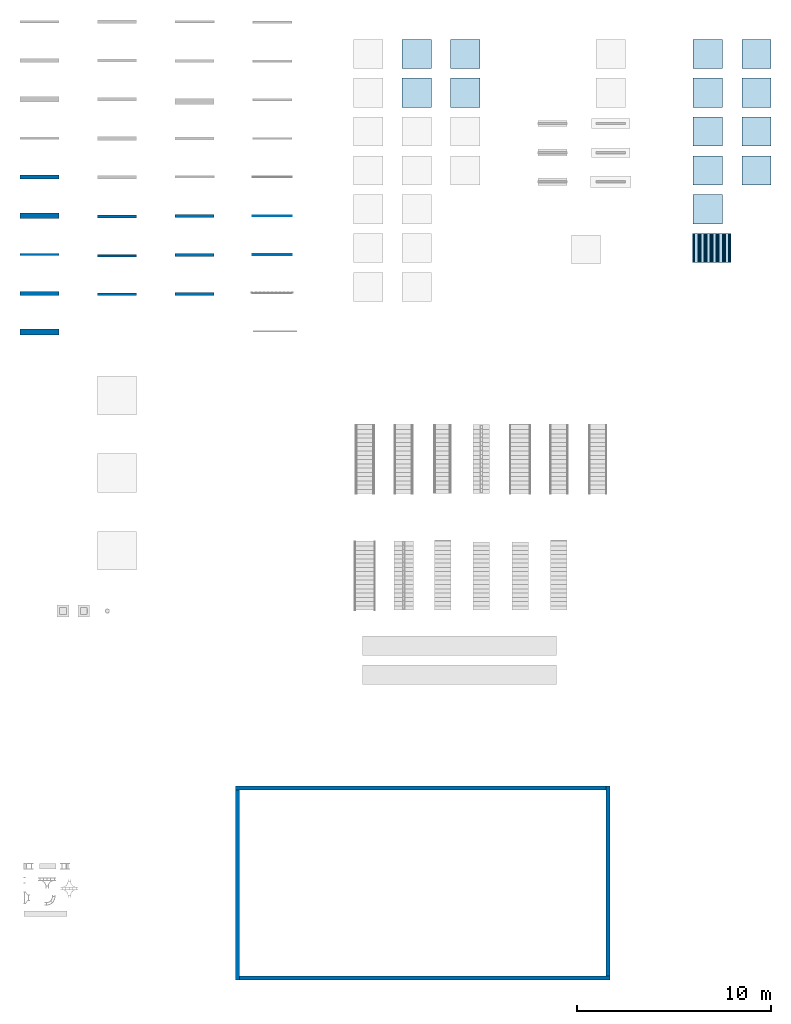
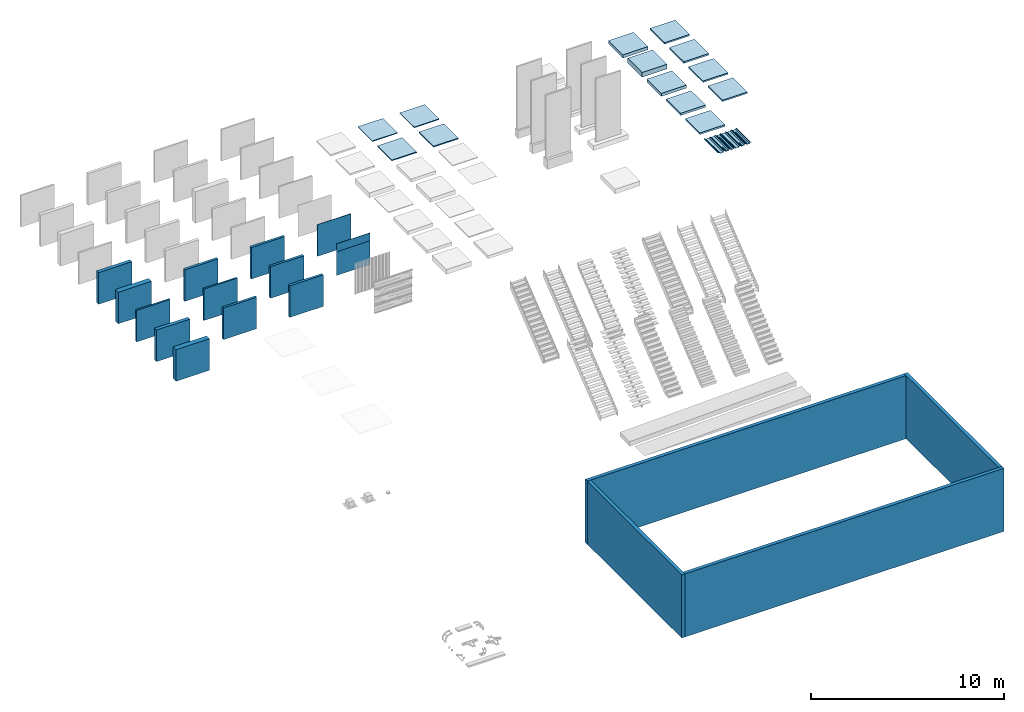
# One storey, part 4 of 13: 18 walls, 13 slabs, 2 plates, 10 elements without a shape of their own.
"""IFC2X3 building model written with IfcOpenShell, lengths in millimetres."""

from ifc_helpers import new_model, entity, si_unit, converted_unit, derived_unit, direction, frame, frame_2d, origin, origin_2d_with_axis, place, context, subcontext, project, spatial, polyline, rectangle, outline, extrude, source, transform, mapped, material, layer, layer_set, layer_usage, type_object, type_shapes, element, aggregate, save


model = new_model("IFC2X3")

# Units and contexts
model_context = context("Model", 3, precision=0.01, world=origin(), true_north=direction((6.12303176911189e-17, 1.0)))
body_context = subcontext(model_context, "Body", "Model", "MODEL_VIEW")
ifc_project = project(units=[si_unit("LENGTHUNIT", "METRE", prefix="MILLI"), si_unit("AREAUNIT", "SQUARE_METRE"), si_unit("VOLUMEUNIT", "CUBIC_METRE"), converted_unit("PLANEANGLEUNIT", "DEGREE", entity("IfcRatioMeasure", 0.0174532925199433), si_unit("PLANEANGLEUNIT", "RADIAN"), dimensions=[0, 0, 0, 0, 0, 0, 0]), si_unit("MASSUNIT", "GRAM", prefix="KILO"), si_unit("TIMEUNIT", "SECOND"), si_unit("FREQUENCYUNIT", "HERTZ"), si_unit("THERMODYNAMICTEMPERATUREUNIT", "KELVIN"), derived_unit("THERMALTRANSMITTANCEUNIT", [(si_unit("MASSUNIT", "GRAM", prefix="KILO"), 1), (si_unit("THERMODYNAMICTEMPERATUREUNIT", "KELVIN"), -1), (si_unit("TIMEUNIT", "SECOND"), -3)]), derived_unit("VOLUMETRICFLOWRATEUNIT", [(si_unit("LENGTHUNIT", "METRE"), 3), (si_unit("TIMEUNIT", "SECOND"), -1)]), si_unit("ELECTRICCURRENTUNIT", "AMPERE"), si_unit("ELECTRICVOLTAGEUNIT", "VOLT"), si_unit("POWERUNIT", "WATT")], contexts=[model_context])

# Site, building, storey
site_placement = place(None, origin())
site = spatial("IfcSite", under=ifc_project, at=site_placement, Name="Surface", CompositionType="ELEMENT")
building_placement = place(site_placement, origin())
building = spatial("IfcBuilding", under=site, at=building_placement, CompositionType="ELEMENT")
storey_placement = place(building_placement, origin())
storey = spatial("IfcBuildingStorey", under=building, at=storey_placement, Name="00_begane grond", CompositionType="ELEMENT", Elevation=0.0)

# Roof, plates
curtain_wall_type = type_object("IfcCurtainWallType", Name="Sloped Glazing:27_CW_SAB58KD_945mm", PredefinedType="NOTDEFINED")
roof_1_placement = place(storey_placement, origin())
roof_1 = element("IfcRoof", 1, at=roof_1_placement, inside=storey, type_object=curtain_wall_type, Name="Sloped Glazing:27_CW_SAB58KD_945mm", ObjectType="Sloped Glazing:27_CW_SAB58KD_945mm:1393", ShapeType="NOTDEFINED")
plate_type_1 = type_object("IfcPlateType", Name="SAB58KD_945", PredefinedType="NOTDEFINED")
shared_shape_1 = source(origin(), body_context, "Body", "SweptSolid", [
    extrude(outline(polyline([(-41.6883369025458, -6.31626557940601), (-38.0537855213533, -6.31626557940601), (-6.51645922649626, 14.7086186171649), (-5.11855484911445, 18.063589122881), (44.5780594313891, 51.1946653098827), (119.78533029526, 31.0648525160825), (162.475119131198, 59.5247117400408), (172.819626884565, 136.689043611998), (222.51559042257, 169.819685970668), (226.150141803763, 169.819685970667), (257.68746809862, 190.844570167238), (259.085372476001, 194.199540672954), (308.781608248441, 227.330364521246), (383.988986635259, 207.200623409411), (416.028687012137, 228.560423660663), (397.342743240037, 286.371121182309), (408.300957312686, 293.676597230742), (418.90416186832, 283.514998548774), (420.28798638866, 284.958961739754), (408.526464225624, 296.23063602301), (394.974288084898, 287.195851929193), (413.660231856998, 229.385154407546), (383.632257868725, 209.366505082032), (308.424879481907, 229.496246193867), (257.472122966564, 195.527741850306), (256.074218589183, 192.17277134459), (225.544590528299, 171.819685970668), (221.910039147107, 171.819685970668), (170.95755361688, 137.851362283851), (160.613045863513, 60.6870304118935), (119.428602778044, 33.2307350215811), (44.2213319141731, 53.3605478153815), (-6.73180435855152, 19.3917903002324), (-8.12970873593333, 16.0368197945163), (-38.6593367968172, -4.31626557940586), (-42.2938881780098, -4.31626557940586), (-93.2479062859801, -38.2856109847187), (-103.592414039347, -115.449942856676), (-144.776857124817, -142.906238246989), (-219.984127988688, -122.776425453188), (-270.937264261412, -156.745182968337), (-272.335168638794, -160.100153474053), (-302.864796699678, -180.453238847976), (-306.49934808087, -180.453238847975), (-357.44939838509, -214.419939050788), (-368.151786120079, -294.22655842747), (-407.873068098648, -320.707413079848), (-423.86478432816, -316.569685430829), (-432.461053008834, -311.156883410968), (-433.526726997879, -312.849319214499), (-424.667084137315, -318.427959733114), (-407.507999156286, -322.867734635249), (-366.289758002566, -295.388907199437), (-355.587370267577, -215.582287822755), (-305.893796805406, -182.453238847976), (-302.259245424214, -182.453238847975), (-270.721919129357, -161.428354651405), (-269.324014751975, -158.073384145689), (-219.627400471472, -124.942307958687), (-144.420129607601, -145.072120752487), (-101.730340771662, -116.612261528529), (-91.3858330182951, -39.4479296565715), (-41.6883369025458, -6.31626557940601)])), frame((534.253619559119, 42.597426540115, 0.0), z_axis=(0.0, 0.0, 1.0), x_axis=(0.832050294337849, -0.55470019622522, 0.0)), (0.0, 0.0, 1.0), 1500.0),
])
type_shapes(plate_type_1, [shared_shape_1])
plate_1_placement = place(roof_1_placement, frame((34647.8084880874, -13415.0, 64.0), z_axis=(0.0, 1.0, 0.0), x_axis=(1.0, 0.0, 0.0)))
plate_1 = element("IfcPlate", 2, at=plate_1_placement, type_object=plate_type_1, Name="27_CWP_SAB58KD_945:SAB58KD_945", ObjectType="SAB58KD_945", context=body_context, shape_type="MappedRepresentation", body=[
    mapped(shared_shape_1, transform((0.0, 0.0, 0.0), scale=1.0)),
])
plate_type_2 = type_object("IfcPlateType", Name="SAB58KD_945", PredefinedType="NOTDEFINED")
shared_shape_2 = source(origin(), body_context, "Body", "SweptSolid", [
    extrude(outline(polyline([(-41.688336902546, -6.31626557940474), (-38.0537855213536, -6.31626557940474), (-6.51645922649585, 14.7086186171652), (-5.11855484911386, 18.0635891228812), (44.5780594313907, 51.1946653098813), (119.785330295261, 31.0648525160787), (162.4751191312, 59.5247117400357), (172.819626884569, 136.689043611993), (222.515590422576, 169.819685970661), (226.150141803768, 169.81968597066), (257.687468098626, 190.84457016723), (259.085372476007, 194.199540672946), (308.781608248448, 227.330364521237), (383.988986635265, 207.200623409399), (416.028687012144, 228.56042366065), (397.342743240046, 286.371121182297), (408.300957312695, 293.676597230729), (418.904161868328, 283.514998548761), (420.287986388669, 284.958961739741), (408.526464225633, 296.230636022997), (394.974288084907, 287.19585192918), (413.660231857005, 229.385154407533), (383.632257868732, 209.36650508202), (308.424879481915, 229.496246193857), (257.47212296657, 195.527741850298), (256.074218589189, 192.172771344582), (225.544590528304, 171.81968597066), (221.910039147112, 171.819685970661), (170.957553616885, 137.851362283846), (160.613045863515, 60.6870304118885), (119.428602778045, 33.2307350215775), (44.2213319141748, 53.3605478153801), (-6.73180435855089, 19.3917903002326), (-8.1297087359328, 16.0368197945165), (-38.6593367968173, -4.31626557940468), (-42.2938881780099, -4.31626557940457), (-93.2479062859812, -38.2856109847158), (-103.592414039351, -115.449942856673), (-144.776857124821, -142.906238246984), (-219.984127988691, -122.776425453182), (-270.937264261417, -156.745182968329), (-272.335168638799, -160.100153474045), (-302.864796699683, -180.453238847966), (-306.499348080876, -180.453238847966), (-357.449398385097, -214.419939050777), (-368.151786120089, -294.226558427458), (-407.873068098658, -320.707413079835), (-423.86478432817, -316.569685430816), (-432.461053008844, -311.156883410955), (-433.526726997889, -312.849319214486), (-424.667084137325, -318.427959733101), (-407.507999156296, -322.867734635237), (-366.289758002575, -295.388907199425), (-355.587370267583, -215.582287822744), (-305.893796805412, -182.453238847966), (-302.259245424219, -182.453238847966), (-270.721919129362, -161.428354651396), (-269.32401475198, -158.07338414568), (-219.627400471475, -124.94230795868), (-144.420129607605, -145.072120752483), (-101.730340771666, -116.612261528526), (-91.3858330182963, -39.4479296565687), (-41.688336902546, -6.31626557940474)])), frame((534.253619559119, 42.597426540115, 0.0), z_axis=(0.0, 0.0, 1.0), x_axis=(0.832050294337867, -0.554700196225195, 0.0)), (0.0, 0.0, 1.0), 1500.0),
])
type_shapes(plate_type_2, [shared_shape_2])
plate_2_placement = place(roof_1_placement, frame((35592.8084880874, -13415.0, 64.0), z_axis=(0.0, 1.0, 0.0), x_axis=(1.0, 0.0, 0.0)))
plate_2 = element("IfcPlate", 3, at=plate_2_placement, type_object=plate_type_2, Name="27_CWP_SAB58KD_945:SAB58KD_945", ObjectType="SAB58KD_945", context=body_context, shape_type="MappedRepresentation", body=[
    mapped(shared_shape_2, transform((0.0, 0.0, 0.0), scale=1.0)),
])
aggregate(roof_1, [plate_1, plate_2])

# Slabs
ifc_material_1 = material(Name="28_beton_prefab_C45_55")
ifc_layer_1 = layer(ifc_material_1, 50.0)
ifc_layer_set_1 = layer_set([ifc_layer_1], Name="Floor:23_FL_breedplaat_50")
ifc_layer_usage_1 = layer_usage(ifc_layer_set_1, "AXIS3", "POSITIVE", 0.0)
slab_1_placement = place(storey_placement, origin())
element("IfcSlab", 4, at=slab_1_placement, inside=storey, material=ifc_layer_usage_1, Name="Floor:23_FL_breedplaat_50", ObjectType="Floor:23_FL_breedplaat_50", PredefinedType="FLOOR", context=body_context, shape_type="SweptSolid", body=[
    extrude(rectangle(XDim=1500.0, YDim=1500.00000000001, at=frame_2d((-1.13686837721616e-13, 0.0), x_axis=(1.0, 0.0))), frame((20443.3473849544, -2665.0, 0.0), z_axis=(0.0, 0.0, -1.0), x_axis=(0.0, 1.0, 0.0)), (0.0, 0.0, 1.0), 50.0),
])
ifc_layer_2 = layer(ifc_material_1, 60.0)
ifc_layer_set_2 = layer_set([ifc_layer_2], Name="Floor:23_FL_breedplaat_60")
ifc_layer_usage_2 = layer_usage(ifc_layer_set_2, "AXIS3", "POSITIVE", 0.0)
slab_2_placement = place(storey_placement, origin())
element("IfcSlab", 5, at=slab_2_placement, inside=storey, material=ifc_layer_usage_2, Name="Floor:23_FL_breedplaat_60", ObjectType="Floor:23_FL_breedplaat_60", PredefinedType="FLOOR", context=body_context, shape_type="SweptSolid", body=[
    extrude(rectangle(XDim=1500.0, YDim=1500.00000000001, at=frame_2d((-5.11590769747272e-13, 0.0), x_axis=(1.0, 0.0))), frame((20443.3473849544, -4665.0, 0.0), z_axis=(0.0, 0.0, -1.0), x_axis=(0.0, 1.0, 0.0)), (0.0, 0.0, 1.0), 60.0),
])
ifc_material_2 = material(Name="43_dekvloer_zandcement")
ifc_layer_3 = layer(ifc_material_2, 50.0)
ifc_layer_set_3 = layer_set([ifc_layer_3], Name="Floor:43_FL_cementdekvloer_50")
ifc_layer_usage_3 = layer_usage(ifc_layer_set_3, "AXIS3", "POSITIVE", 0.0)
slab_3_placement = place(storey_placement, origin())
element("IfcSlab", 6, at=slab_3_placement, inside=storey, material=ifc_layer_usage_3, Name="Floor:43_FL_cementdekvloer_50", ObjectType="Floor:43_FL_cementdekvloer_50", PredefinedType="FLOOR", context=body_context, shape_type="SweptSolid", body=[
    extrude(rectangle(XDim=1500.0, YDim=1500.00000000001, at=frame_2d((1.70530256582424e-13, 0.0), x_axis=(1.0, 0.0))), frame((22943.3473849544, -2665.0, 0.0), z_axis=(0.0, 0.0, -1.0), x_axis=(0.0, 1.0, 0.0)), (0.0, 0.0, 1.0), 50.0),
])
ifc_layer_4 = layer(ifc_material_2, 70.0)
ifc_layer_set_4 = layer_set([ifc_layer_4], Name="Floor:43_FL_cementdekvloer_70")
ifc_layer_usage_4 = layer_usage(ifc_layer_set_4, "AXIS3", "POSITIVE", 0.0)
slab_4_placement = place(storey_placement, origin())
element("IfcSlab", 7, at=slab_4_placement, inside=storey, material=ifc_layer_usage_4, Name="Floor:43_FL_cementdekvloer_70", ObjectType="Floor:43_FL_cementdekvloer_70", PredefinedType="FLOOR", context=body_context, shape_type="SweptSolid", body=[
    extrude(rectangle(XDim=1500.0, YDim=1500.00000000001, at=origin_2d_with_axis()), frame((22943.3473849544, -4665.0, 0.0), z_axis=(0.0, 0.0, -1.0), x_axis=(0.0, 1.0, 0.0)), (0.0, 0.0, 1.0), 70.0),
])

# Roof, slab
roof_2_placement = place(storey_placement, frame((34693.3473849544, -3415.0, 0.0)))
roof_2 = element("IfcRoof", 8, at=roof_2_placement, inside=storey, Name="Basic Roof:27_RO_generiek_200", ObjectType="Basic Roof:27_RO_generiek_200", ShapeType="NOTDEFINED")
ifc_material_3 = material(Name="Default")
ifc_layer_5 = layer(ifc_material_3, 200.0)
ifc_layer_set_5 = layer_set([ifc_layer_5], Name="Basic Roof:27_RO_generiek_200")
slab_5_placement = place(roof_2_placement, origin())
slab_5 = element("IfcSlab", 9, at=slab_5_placement, material=ifc_layer_set_5, Name="Basic Roof:27_RO_generiek_200", ObjectType="Basic Roof:27_RO_generiek_200", PredefinedType="ROOF", context=body_context, shape_type="SweptSolid", body=[
    extrude(rectangle(XDim=1500.0, YDim=1500.0, at=frame_2d((-2.1600499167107e-12, 0.0), x_axis=(1.0, 0.0))), frame((750.0, 750.0, 0.0)), (0.0, 0.0, 1.0), 200.0),
])
aggregate(roof_2, [slab_5])

roof_3_placement = place(storey_placement, frame((34693.3473849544, -5415.0, 0.0)))
roof_3 = element("IfcRoof", 10, at=roof_3_placement, inside=storey, Name="Basic Roof:27_RO_generiek_300", ObjectType="Basic Roof:27_RO_generiek_300", ShapeType="NOTDEFINED")
ifc_layer_6 = layer(ifc_material_3, 300.0)
ifc_layer_set_6 = layer_set([ifc_layer_6], Name="Basic Roof:27_RO_generiek_300")
slab_6_placement = place(roof_3_placement, origin())
slab_6 = element("IfcSlab", 11, at=slab_6_placement, material=ifc_layer_set_6, Name="Basic Roof:27_RO_generiek_300", ObjectType="Basic Roof:27_RO_generiek_300", PredefinedType="ROOF", context=body_context, shape_type="SweptSolid", body=[
    extrude(rectangle(XDim=1500.0, YDim=1500.0, at=frame_2d((2.1600499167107e-12, 0.0), x_axis=(1.0, 0.0))), frame((750.0, 750.0, 0.0)), (0.0, 0.0, 1.0), 300.0),
])
aggregate(roof_3, [slab_6])

roof_4_placement = place(storey_placement, frame((37193.3473849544, -3415.0, 0.0)))
roof_4 = element("IfcRoof", 12, at=roof_4_placement, inside=storey, Name="Basic Roof:47_RO_isolatie_PIR_bitumen_82_80-2", ObjectType="Basic Roof:47_RO_isolatie_PIR_bitumen_82_80-2", ShapeType="NOTDEFINED")
ifc_material_4 = material(Name="47_bitumen")
ifc_layer_7 = layer(ifc_material_4, 2.0)
ifc_material_5 = material(Name="20_isolatie_PIR")
ifc_layer_8 = layer(ifc_material_5, 100.0)
ifc_layer_set_7 = layer_set([ifc_layer_7, ifc_layer_8], Name="Basic Roof:47_RO_isolatie_PIR_bitumen_82_80-2")
slab_7_placement = place(roof_4_placement, origin())
slab_7 = element("IfcSlab", 13, at=slab_7_placement, material=ifc_layer_set_7, Name="Basic Roof:47_RO_isolatie_PIR_bitumen_82_80-2", ObjectType="Basic Roof:47_RO_isolatie_PIR_bitumen_82_80-2", PredefinedType="ROOF", context=body_context, shape_type="SweptSolid", body=[
    extrude(rectangle(XDim=1500.0, YDim=1500.0, at=frame_2d((2.1600499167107e-12, 0.0), x_axis=(1.0, 0.0))), frame((750.0, 750.0, 0.0)), (0.0, 0.0, 1.0), 102.0),
])
aggregate(roof_4, [slab_7])

roof_5_placement = place(storey_placement, frame((37193.3473849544, -5415.0, 0.0)))
roof_5 = element("IfcRoof", 14, at=roof_5_placement, inside=storey, Name="Basic Roof:47_RO_isolatie_EPS_bitumen_102_100-2", ObjectType="Basic Roof:47_RO_isolatie_EPS_bitumen_102_100-2", ShapeType="NOTDEFINED")
ifc_layer_9 = layer(ifc_material_4, 2.0)
ifc_material_6 = material(Name="20_isolatie_EPS")
ifc_layer_10 = layer(ifc_material_6, 100.0)
ifc_layer_set_8 = layer_set([ifc_layer_9, ifc_layer_10], Name="Basic Roof:47_RO_isolatie_EPS_bitumen_102_100-2")
slab_8_placement = place(roof_5_placement, origin())
slab_8 = element("IfcSlab", 15, at=slab_8_placement, material=ifc_layer_set_8, Name="Basic Roof:47_RO_isolatie_EPS_bitumen_102_100-2", ObjectType="Basic Roof:47_RO_isolatie_EPS_bitumen_102_100-2", PredefinedType="ROOF", context=body_context, shape_type="SweptSolid", body=[
    extrude(rectangle(XDim=1500.0, YDim=1500.0, at=frame_2d((-2.1600499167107e-12, 0.0), x_axis=(1.0, 0.0))), frame((750.0, 750.0, 0.0)), (0.0, 0.0, 1.0), 102.0),
])
aggregate(roof_5, [slab_8])

roof_6_placement = place(storey_placement, frame((34693.3473849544, -7415.0, 0.0)))
roof_6 = element("IfcRoof", 16, at=roof_6_placement, inside=storey, Name="Basic Roof:27_RO_hout_underlayment_189_171-18", ObjectType="Basic Roof:27_RO_hout_underlayment_189_171-18", ShapeType="NOTDEFINED")
ifc_material_7 = material(Name="27_beplating_underlayment")
ifc_layer_11 = layer(ifc_material_7, 18.0)
ifc_material_8 = material(Name="27_houten_balklaag_geventileerd")
ifc_layer_12 = layer(ifc_material_8, 171.0)
ifc_layer_set_9 = layer_set([ifc_layer_11, ifc_layer_12], Name="Basic Roof:27_RO_hout_underlayment_189_171-18")
slab_9_placement = place(roof_6_placement, origin())
slab_9 = element("IfcSlab", 17, at=slab_9_placement, material=ifc_layer_set_9, Name="Basic Roof:27_RO_hout_underlayment_189_171-18", ObjectType="Basic Roof:27_RO_hout_underlayment_189_171-18", PredefinedType="ROOF", context=body_context, shape_type="SweptSolid", body=[
    extrude(rectangle(XDim=1500.0, YDim=1500.0, at=frame_2d((-2.1600499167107e-12, 0.0), x_axis=(1.0, 0.0))), frame((750.0, 750.0, 0.0)), (0.0, 0.0, 1.0), 189.0),
])
aggregate(roof_6, [slab_9])

roof_7_placement = place(storey_placement, frame((34693.3473849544, -9415.0, 0.0)))
roof_7 = element("IfcRoof", 18, at=roof_7_placement, inside=storey, Name="Basic Roof:27_RO_dakplaat_enkelschalig_PIR_135_33-90-12", ObjectType="Basic Roof:27_RO_dakplaat_enkelschalig_PIR_135_33-90-12", ShapeType="NOTDEFINED")
ifc_material_9 = material(Name="00_lucht_spouw_dak_geventileerd")
ifc_layer_13 = layer(ifc_material_9, 33.0)
ifc_layer_14 = layer(ifc_material_5, 90.0)
ifc_material_10 = material(Name="20_beplating_MDF")
ifc_layer_15 = layer(ifc_material_10, 12.0)
ifc_layer_set_10 = layer_set([ifc_layer_13, ifc_layer_14, ifc_layer_15], Name="Basic Roof:27_RO_dakplaat_enkelschalig_PIR_135_33-90-12")
slab_10_placement = place(roof_7_placement, origin())
slab_10 = element("IfcSlab", 19, at=slab_10_placement, material=ifc_layer_set_10, Name="Basic Roof:27_RO_dakplaat_enkelschalig_PIR_135_33-90-12", ObjectType="Basic Roof:27_RO_dakplaat_enkelschalig_PIR_135_33-90-12", PredefinedType="ROOF", context=body_context, shape_type="SweptSolid", body=[
    extrude(rectangle(XDim=1500.0, YDim=1500.0, at=frame_2d((2.1600499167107e-12, 0.0), x_axis=(1.0, 0.0))), frame((750.0, 750.0, 0.0)), (0.0, 0.0, 1.0), 135.0),
])
aggregate(roof_7, [slab_10])

roof_8_placement = place(storey_placement, frame((37193.3473849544, -7415.0, 0.0)))
roof_8 = element("IfcRoof", 20, at=roof_8_placement, inside=storey, Name="Basic Roof:47_RO_dakpan_grijs_300x300", ObjectType="Basic Roof:47_RO_dakpan_grijs_300x300", ShapeType="NOTDEFINED")
ifc_material_11 = material(Name="47_dakpan_grijs")
ifc_layer_16 = layer(ifc_material_11, 70.0)
ifc_material_12 = material(Name="47_panlat_geventileerd")
ifc_layer_17 = layer(ifc_material_12, 22.0)
ifc_layer_set_11 = layer_set([ifc_layer_16, ifc_layer_17], Name="Basic Roof:47_RO_dakpan_grijs_300x300")
slab_11_placement = place(roof_8_placement, origin())
slab_11 = element("IfcSlab", 21, at=slab_11_placement, material=ifc_layer_set_11, Name="Basic Roof:47_RO_dakpan_grijs_300x300", ObjectType="Basic Roof:47_RO_dakpan_grijs_300x300", PredefinedType="ROOF", context=body_context, shape_type="SweptSolid", body=[
    extrude(rectangle(XDim=1500.0, YDim=1500.0, at=frame_2d((2.1600499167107e-12, 5.11590769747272e-13), x_axis=(1.0, 0.0))), frame((750.0, 750.0, 0.0)), (0.0, 0.0, 1.0), 92.0),
])
aggregate(roof_8, [slab_11])

roof_9_placement = place(storey_placement, frame((37193.3473849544, -9415.0, 0.0)))
roof_9 = element("IfcRoof", 22, at=roof_9_placement, inside=storey, Name="Basic Roof:47_RO_dakpan_rood_300x300", ObjectType="Basic Roof:47_RO_dakpan_rood_300x300", ShapeType="NOTDEFINED")
ifc_material_13 = material(Name="47_dakpan_rood")
ifc_layer_18 = layer(ifc_material_13, 70.0)
ifc_layer_19 = layer(ifc_material_12, 22.0)
ifc_layer_set_12 = layer_set([ifc_layer_18, ifc_layer_19], Name="Basic Roof:47_RO_dakpan_rood_300x300")
slab_12_placement = place(roof_9_placement, origin())
slab_12 = element("IfcSlab", 23, at=slab_12_placement, material=ifc_layer_set_12, Name="Basic Roof:47_RO_dakpan_rood_300x300", ObjectType="Basic Roof:47_RO_dakpan_rood_300x300", PredefinedType="ROOF", context=body_context, shape_type="SweptSolid", body=[
    extrude(rectangle(XDim=1500.0, YDim=1500.0, at=frame_2d((-2.1600499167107e-12, 5.11590769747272e-13), x_axis=(1.0, 0.0))), frame((750.0, 750.0, 0.0)), (0.0, 0.0, 1.0), 92.0),
])
aggregate(roof_9, [slab_12])

roof_10_placement = place(storey_placement, frame((34693.3473849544, -11415.0, 0.0)))
roof_10 = element("IfcRoof", 24, at=roof_10_placement, inside=storey, Name="Basic Roof:27_RO_dakplaat_sandwich_PIR_106_20-3-80-3", ObjectType="Basic Roof:27_RO_dakplaat_sandwich_PIR_106_20-3-80-3", ShapeType="NOTDEFINED")
ifc_material_14 = material(Name="27_tengels_geventileerd")
ifc_layer_20 = layer(ifc_material_14, 20.0)
ifc_layer_21 = layer(ifc_material_10, 3.0)
ifc_layer_22 = layer(ifc_material_5, 80.0)
ifc_layer_23 = layer(ifc_material_10, 3.0)
ifc_layer_set_13 = layer_set([ifc_layer_20, ifc_layer_21, ifc_layer_22, ifc_layer_23], Name="Basic Roof:27_RO_dakplaat_sandwich_PIR_106_20-3-80-3")
slab_13_placement = place(roof_10_placement, origin())
slab_13 = element("IfcSlab", 25, at=slab_13_placement, material=ifc_layer_set_13, Name="Basic Roof:27_RO_dakplaat_sandwich_PIR_106_20-3-80-3", ObjectType="Basic Roof:27_RO_dakplaat_sandwich_PIR_106_20-3-80-3", PredefinedType="ROOF", context=body_context, shape_type="SweptSolid", body=[
    extrude(rectangle(XDim=1500.0, YDim=1500.0, at=frame_2d((-2.1600499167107e-12, 0.0), x_axis=(1.0, 0.0))), frame((750.0, 750.0, 0.0)), (0.0, 0.0, 1.0), 106.0),
])
aggregate(roof_10, [slab_13])

# Walls
ifc_material_15 = material(Name="20_baksteen_wf_210x100x50_10mm_voeg_halfsteens_rood_genuanceerd")
ifc_layer_24 = layer(ifc_material_15, 100.0)
ifc_layer_set_14 = layer_set([ifc_layer_24], Name="Basic Wall:21_WA_mw_100")
ifc_layer_usage_5 = layer_usage(ifc_layer_set_14, "AXIS2", "NEGATIVE", 50.0)
wall_type_1 = type_object("IfcWallType", Name="Basic Wall:21_WA_mw_100", PredefinedType="STANDARD", material=ifc_layer_set_14)
wall_1_placement = place(storey_placement, frame((0.0, -13000.0, 0.0)))
element("IfcWallStandardCase", 26, at=wall_1_placement, inside=storey, type_object=wall_type_1, material=ifc_layer_usage_5, Name="Basic Wall:21_WA_mw_100", ObjectType="Basic Wall:21_WA_mw_100", context=body_context, shape_type="SweptSolid", body=[
    extrude(rectangle(XDim=2000.0, YDim=99.9999999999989, at=frame_2d((1000.0, 5.32907051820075e-13), x_axis=(-1.0, 0.0))), origin(), (0.0, 0.0, 1.0), 2000.0),
])
ifc_layer_25 = layer(ifc_material_15, 210.0)
ifc_layer_set_15 = layer_set([ifc_layer_25], Name="Basic Wall:21_WA_mw_210")
ifc_layer_usage_6 = layer_usage(ifc_layer_set_15, "AXIS2", "NEGATIVE", 105.0)
wall_type_2 = type_object("IfcWallType", Name="Basic Wall:21_WA_mw_210", PredefinedType="STANDARD", material=ifc_layer_set_15)
wall_2_placement = place(storey_placement, frame((0.0, -15000.0, 0.0)))
element("IfcWallStandardCase", 27, at=wall_2_placement, inside=storey, type_object=wall_type_2, material=ifc_layer_usage_6, Name="Basic Wall:21_WA_mw_210", ObjectType="Basic Wall:21_WA_mw_210", context=body_context, shape_type="SweptSolid", body=[
    extrude(rectangle(XDim=2000.0, YDim=210.0, at=frame_2d((1000.0, 5.32907051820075e-13), x_axis=(-1.0, 0.0))), origin(), (0.0, 0.0, 1.0), 2000.0),
])
ifc_layer_usage_7 = layer_usage(ifc_layer_set_15, "AXIS2", "NEGATIVE", 105.0)
wall_3_placement = place(storey_placement, frame((30413.0792090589, -50280.5041637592, 0.0), z_axis=(0.0, 0.0, 1.0), x_axis=(-1.0, 0.0, 0.0)))
element("IfcWallStandardCase", 28, at=wall_3_placement, inside=storey, type_object=wall_type_2, material=ifc_layer_usage_7, Name="Basic Wall:21_WA_mw_210", ObjectType="Basic Wall:21_WA_mw_210", context=body_context, shape_type="SweptSolid", body=[
    extrude(rectangle(XDim=19100.0, YDim=210.000000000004, at=frame_2d((9550.0, 0.0), x_axis=(-1.0, 0.0))), origin(), (0.0, 0.0, 1.0), 4000.0),
])
ifc_layer_usage_8 = layer_usage(ifc_layer_set_15, "AXIS2", "NEGATIVE", 105.0)
wall_4_placement = place(storey_placement, frame((30308.0792090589, -40375.5041637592, 0.0), z_axis=(0.0, 0.0, 1.0), x_axis=(0.0, -1.0, 0.0)))
element("IfcWallStandardCase", 29, at=wall_4_placement, inside=storey, type_object=wall_type_2, material=ifc_layer_usage_8, Name="Basic Wall:21_WA_mw_210", ObjectType="Basic Wall:21_WA_mw_210", context=body_context, shape_type="SweptSolid", body=[
    extrude(rectangle(XDim=9800.0, YDim=210.000000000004, at=frame_2d((4900.0, 0.0), x_axis=(-1.0, 0.0))), origin(), (0.0, 0.0, 1.0), 4000.0),
])
ifc_layer_usage_9 = layer_usage(ifc_layer_set_15, "AXIS2", "NEGATIVE", 105.0)
wall_5_placement = place(storey_placement, frame((11103.0792090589, -40480.5041637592, 0.0)))
element("IfcWallStandardCase", 30, at=wall_5_placement, inside=storey, type_object=wall_type_2, material=ifc_layer_usage_9, Name="Basic Wall:21_WA_mw_210", ObjectType="Basic Wall:21_WA_mw_210", context=body_context, shape_type="SweptSolid", body=[
    extrude(rectangle(XDim=19100.0, YDim=210.000000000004, at=frame_2d((9550.0, 0.0), x_axis=(-1.0, 0.0))), origin(), (0.0, 0.0, 1.0), 4000.0),
])
ifc_layer_usage_10 = layer_usage(ifc_layer_set_15, "AXIS2", "NEGATIVE", 105.0)
wall_6_placement = place(storey_placement, frame((11208.0792090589, -50385.5041637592, 0.0), z_axis=(0.0, 0.0, 1.0), x_axis=(0.0, 1.0, 0.0)))
element("IfcWallStandardCase", 31, at=wall_6_placement, inside=storey, type_object=wall_type_2, material=ifc_layer_usage_10, Name="Basic Wall:21_WA_mw_210", ObjectType="Basic Wall:21_WA_mw_210", context=body_context, shape_type="SweptSolid", body=[
    extrude(rectangle(XDim=9800.0, YDim=210.0, at=frame_2d((4900.0, 0.0), x_axis=(-1.0, 0.0))), origin(), (0.0, 0.0, 1.0), 4000.0),
])
ifc_layer_26 = layer(ifc_material_15, 100.0)
ifc_material_16 = material(Name="00_lucht_spouw_muur_geventileerd")
ifc_layer_27 = layer(ifc_material_16, 100.0)
ifc_layer_28 = layer(ifc_material_15, 100.0)
ifc_layer_set_16 = layer_set([ifc_layer_26, ifc_layer_27, ifc_layer_28], Name="Basic Wall:21_WA_mw_spouw_mw_300_100-100-100")
ifc_layer_usage_11 = layer_usage(ifc_layer_set_16, "AXIS2", "NEGATIVE", 150.0)
wall_type_3 = type_object("IfcWallType", Name="Basic Wall:21_WA_mw_spouw_mw_300_100-100-100", PredefinedType="STANDARD", material=ifc_layer_set_16)
wall_7_placement = place(storey_placement, frame((0.0, -17000.0, 0.0)))
element("IfcWallStandardCase", 32, at=wall_7_placement, inside=storey, type_object=wall_type_3, material=ifc_layer_usage_11, Name="Basic Wall:21_WA_mw_spouw_mw_300_100-100-100", ObjectType="Basic Wall:21_WA_mw_spouw_mw_300_100-100-100", context=body_context, shape_type="SweptSolid", body=[
    extrude(rectangle(XDim=2000.0, YDim=300.000000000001, at=frame_2d((1000.0, 5.40012479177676e-13), x_axis=(-1.0, 0.0))), origin(), (0.0, 0.0, 1.0), 2000.0),
])
ifc_material_17 = material(Name="00_baksteen_bestaand")
ifc_layer_29 = layer(ifc_material_17, 210.0)
ifc_layer_set_17 = layer_set([ifc_layer_29], Name="Basic Wall:21_WA_mw_bestaand_210")
ifc_layer_usage_12 = layer_usage(ifc_layer_set_17, "AXIS2", "NEGATIVE", 105.0)
wall_type_4 = type_object("IfcWallType", Name="Basic Wall:21_WA_mw_bestaand_210", PredefinedType="STANDARD", material=ifc_layer_set_17)
wall_8_placement = place(storey_placement, frame((0.0, -9000.0, 0.0)))
element("IfcWallStandardCase", 33, at=wall_8_placement, inside=storey, type_object=wall_type_4, material=ifc_layer_usage_12, Name="Basic Wall:21_WA_mw_bestaand_210", ObjectType="Basic Wall:21_WA_mw_bestaand_210", context=body_context, shape_type="SweptSolid", body=[
    extrude(rectangle(XDim=2000.0, YDim=210.0, at=frame_2d((1000.0, -1.4210854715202e-14), x_axis=(-1.0, 0.0))), origin(), (0.0, 0.0, 1.0), 2000.0),
])
ifc_layer_30 = layer(ifc_material_17, 100.0)
ifc_layer_31 = layer(ifc_material_16, 100.0)
ifc_layer_32 = layer(ifc_material_17, 100.0)
ifc_layer_set_18 = layer_set([ifc_layer_30, ifc_layer_31, ifc_layer_32], Name="Basic Wall:21_WA_mw-bestaand_spouw_mw-bestaand_300_100-100-100")
ifc_layer_usage_13 = layer_usage(ifc_layer_set_18, "AXIS2", "NEGATIVE", 150.0)
wall_type_5 = type_object("IfcWallType", Name="Basic Wall:21_WA_mw-bestaand_spouw_mw-bestaand_300_100-100-100", PredefinedType="STANDARD", material=ifc_layer_set_18)
wall_9_placement = place(storey_placement, frame((0.0, -11000.0, 0.0)))
element("IfcWallStandardCase", 34, at=wall_9_placement, inside=storey, type_object=wall_type_5, material=ifc_layer_usage_13, Name="Basic Wall:21_WA_mw-bestaand_spouw_mw-bestaand_300_100-100-100", ObjectType="Basic Wall:21_WA_mw-bestaand_spouw_mw-bestaand_300_100-100-100", context=body_context, shape_type="SweptSolid", body=[
    extrude(rectangle(XDim=2000.0, YDim=300.000000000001, at=frame_2d((1000.0, 5.40012479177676e-13), x_axis=(-1.0, 0.0))), origin(), (0.0, 0.0, 1.0), 2000.0),
])
ifc_material_18 = material(Name="40_stucwerk_exterieur_grof_wit")
ifc_layer_33 = layer(ifc_material_18, 30.0)
ifc_layer_34 = layer(ifc_material_6, 120.0)
ifc_layer_set_19 = layer_set([ifc_layer_33, ifc_layer_34], Name="Basic Wall:21_WA_stucwerk_iso-eps_150_30-120")
ifc_layer_usage_14 = layer_usage(ifc_layer_set_19, "AXIS2", "NEGATIVE", 75.0)
wall_type_6 = type_object("IfcWallType", Name="Basic Wall:21_WA_stucwerk_iso-eps_150_30-120", PredefinedType="STANDARD", material=ifc_layer_set_19)
wall_10_placement = place(storey_placement, frame((4000.0, -11045.0, 0.0)))
element("IfcWallStandardCase", 35, at=wall_10_placement, inside=storey, type_object=wall_type_6, material=ifc_layer_usage_14, Name="Basic Wall:21_WA_stucwerk_iso-eps_150_30-120", ObjectType="Basic Wall:21_WA_stucwerk_iso-eps_150_30-120", context=body_context, shape_type="SweptSolid", body=[
    extrude(rectangle(XDim=2000.0, YDim=150.000000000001, at=frame_2d((1000.0, 5.32907051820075e-13), x_axis=(-1.0, 0.0))), origin(), (0.0, 0.0, 1.0), 2000.0),
])
ifc_material_19 = material(Name="41_staal_geanodizeerd_wit")
ifc_layer_35 = layer(ifc_material_19, 1.6)
ifc_layer_36 = layer(ifc_material_5, 96.8)
ifc_layer_37 = layer(ifc_material_19, 1.6)
ifc_layer_set_20 = layer_set([ifc_layer_35, ifc_layer_36, ifc_layer_37], Name="Basic Wall:21_WA_sandwichpaneel_100x1000")
ifc_layer_usage_15 = layer_usage(ifc_layer_set_20, "AXIS2", "NEGATIVE", 50.0)
wall_type_7 = type_object("IfcWallType", Name="Basic Wall:21_WA_sandwichpaneel_100x1000", PredefinedType="STANDARD", material=ifc_layer_set_20)
wall_11_placement = place(storey_placement, frame((4000.0, -13070.0, 0.0)))
element("IfcWallStandardCase", 36, at=wall_11_placement, inside=storey, type_object=wall_type_7, material=ifc_layer_usage_15, Name="Basic Wall:21_WA_sandwichpaneel_100x1000", ObjectType="Basic Wall:21_WA_sandwichpaneel_100x1000", context=body_context, shape_type="SweptSolid", body=[
    extrude(rectangle(XDim=2000.0, YDim=99.9999999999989, at=frame_2d((1000.0, 5.32907051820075e-13), x_axis=(-1.0, 0.0))), origin(), (0.0, 0.0, 1.0), 2000.0),
])
ifc_layer_38 = layer(ifc_material_1, 150.0)
ifc_layer_set_21 = layer_set([ifc_layer_38], Name="Basic Wall:28_WA_prefabb_C45_150")
ifc_layer_usage_16 = layer_usage(ifc_layer_set_21, "AXIS2", "NEGATIVE", 75.0)
wall_type_8 = type_object("IfcWallType", Name="Basic Wall:28_WA_prefabb_C45_150", PredefinedType="STANDARD", material=ifc_layer_set_21)
wall_12_placement = place(storey_placement, frame((8000.0, -13025.0, 0.0)))
element("IfcWallStandardCase", 37, at=wall_12_placement, inside=storey, type_object=wall_type_8, material=ifc_layer_usage_16, Name="Basic Wall:28_WA_prefabb_C45_150", ObjectType="Basic Wall:28_WA_prefabb_C45_150", context=body_context, shape_type="SweptSolid", body=[
    extrude(rectangle(XDim=2000.0, YDim=150.000000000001, at=frame_2d((1000.0, 5.32907051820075e-13), x_axis=(-1.0, 0.0))), origin(), (0.0, 0.0, 1.0), 2000.0),
])
ifc_material_20 = material(Name="40_stucwerk_interieur_fijn_wit")
ifc_layer_39 = layer(ifc_material_20, 20.0)
ifc_layer_set_22 = layer_set([ifc_layer_39], Name="Basic Wall:42_WA_stucwerk_20")
ifc_layer_usage_17 = layer_usage(ifc_layer_set_22, "AXIS2", "NEGATIVE", 10.0)
wall_type_9 = type_object("IfcWallType", Name="Basic Wall:42_WA_stucwerk_20", PredefinedType="STANDARD", material=ifc_layer_set_22)
wall_13_placement = place(storey_placement, frame((12000.0, -13012.5, 1500.0)))
element("IfcWallStandardCase", 38, at=wall_13_placement, inside=storey, type_object=wall_type_9, material=ifc_layer_usage_17, Name="Basic Wall:42_WA_stucwerk_20", ObjectType="Basic Wall:42_WA_stucwerk_20", context=body_context, shape_type="SweptSolid", body=[
    extrude(rectangle(XDim=2000.0, YDim=19.9999999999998, at=frame_2d((1000.0, 5.32907051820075e-13), x_axis=(-1.0, 0.0))), origin(), (0.0, 0.0, 1.0), 500.0),
])
ifc_material_21 = material(Name="40_tegels_keramisch_150x150mm_wit")
ifc_layer_40 = layer(ifc_material_21, 10.0)
ifc_material_22 = material(Name="00_zandcement")
ifc_layer_41 = layer(ifc_material_22, 20.0)
ifc_layer_set_23 = layer_set([ifc_layer_40, ifc_layer_41], Name="Basic Wall:42_WA_tegelwerk_150x150x10mm_op cementmortel_wit")
ifc_layer_usage_18 = layer_usage(ifc_layer_set_23, "AXIS2", "NEGATIVE", 15.0)
wall_type_10 = type_object("IfcWallType", Name="Basic Wall:42_WA_tegelwerk_150x150x10mm_op cementmortel_wit", PredefinedType="STANDARD", material=ifc_layer_set_23)
wall_14_placement = place(storey_placement, frame((12000.0, -11012.5, 0.0)))
element("IfcWallStandardCase", 39, at=wall_14_placement, inside=storey, type_object=wall_type_10, material=ifc_layer_usage_18, Name="Basic Wall:42_WA_tegelwerk_150x150x10mm_op cementmortel_wit", ObjectType="Basic Wall:42_WA_tegelwerk_150x150x10mm_op cementmortel_wit", context=body_context, shape_type="SweptSolid", body=[
    extrude(rectangle(XDim=2000.0, YDim=30.0000000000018, at=frame_2d((1000.0, 5.32907051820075e-13), x_axis=(-1.0, 0.0))), origin(), (0.0, 0.0, 1.0), 2000.0),
])
ifc_layer_usage_19 = layer_usage(ifc_layer_set_23, "AXIS2", "NEGATIVE", 15.0)
wall_15_placement = place(storey_placement, frame((12000.0, -13012.5, 0.0)))
element("IfcWallStandardCase", 40, at=wall_15_placement, inside=storey, type_object=wall_type_10, material=ifc_layer_usage_19, Name="Basic Wall:42_WA_tegelwerk_150x150x10mm_op cementmortel_wit", ObjectType="Basic Wall:42_WA_tegelwerk_150x150x10mm_op cementmortel_wit", context=body_context, shape_type="SweptSolid", body=[
    extrude(rectangle(XDim=2000.0, YDim=30.0000000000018, at=frame_2d((1000.0, 5.32907051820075e-13), x_axis=(-1.0, 0.0))), origin(), (0.0, 0.0, 1.0), 1500.0),
])
ifc_layer_42 = layer(ifc_material_16, 40.0)
ifc_material_23 = material(Name="20_isolatie_steenwol")
ifc_layer_43 = layer(ifc_material_23, 100.0)
ifc_layer_set_24 = layer_set([ifc_layer_42, ifc_layer_43], Name="Basic Wall:21_WA_spouw_iso-sw_140_40-100")
ifc_layer_usage_20 = layer_usage(ifc_layer_set_24, "AXIS2", "NEGATIVE", 70.0)
wall_type_11 = type_object("IfcWallType", Name="Basic Wall:21_WA_spouw_iso-sw_140_40-100", PredefinedType="STANDARD", material=ifc_layer_set_24)
wall_16_placement = place(storey_placement, frame((4000.0, -15050.0, 0.0)))
element("IfcWallStandardCase", 41, at=wall_16_placement, inside=storey, type_object=wall_type_11, material=ifc_layer_usage_20, Name="Basic Wall:21_WA_spouw_iso-sw_140_40-100", ObjectType="Basic Wall:21_WA_spouw_iso-sw_140_40-100", context=body_context, shape_type="SweptSolid", body=[
    extrude(rectangle(XDim=2000.0, YDim=139.999999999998, at=frame_2d((1000.0, 5.32907051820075e-13), x_axis=(-1.0, 0.0))), origin(), (0.0, 0.0, 1.0), 2000.0),
])
ifc_material_24 = material(Name="28_beton_ihwg_C25_30")
ifc_layer_44 = layer(ifc_material_24, 150.0)
ifc_layer_set_25 = layer_set([ifc_layer_44], Name="Basic Wall:28_WA_ihwgb_C25_150")
ifc_layer_usage_21 = layer_usage(ifc_layer_set_25, "AXIS2", "NEGATIVE", 75.0)
wall_type_12 = type_object("IfcWallType", Name="Basic Wall:28_WA_ihwgb_C25_150", PredefinedType="STANDARD", material=ifc_layer_set_25)
wall_17_placement = place(storey_placement, frame((8000.0, -15025.0, 0.0)))
element("IfcWallStandardCase", 42, at=wall_17_placement, inside=storey, type_object=wall_type_12, material=ifc_layer_usage_21, Name="Basic Wall:28_WA_ihwgb_C25_150", ObjectType="Basic Wall:28_WA_ihwgb_C25_150", context=body_context, shape_type="SweptSolid", body=[
    extrude(rectangle(XDim=2000.0, YDim=150.000000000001, at=frame_2d((1000.0, 5.32907051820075e-13), x_axis=(-1.0, 0.0))), origin(), (0.0, 0.0, 1.0), 2000.0),
])
ifc_material_25 = material(Name="28_cellenbeton_G4/600")
ifc_layer_45 = layer(ifc_material_25, 150.0)
ifc_layer_set_26 = layer_set([ifc_layer_45], Name="Basic Wall:28_WA_cb_G4/600_150")
ifc_layer_usage_22 = layer_usage(ifc_layer_set_26, "AXIS2", "NEGATIVE", 75.0)
wall_type_13 = type_object("IfcWallType", Name="Basic Wall:28_WA_cb_G4/600_150", PredefinedType="STANDARD", material=ifc_layer_set_26)
wall_18_placement = place(storey_placement, frame((8000.0, -11025.0, 0.0)))
element("IfcWallStandardCase", 43, at=wall_18_placement, inside=storey, type_object=wall_type_13, material=ifc_layer_usage_22, Name="Basic Wall:28_WA_cb_G4/600_150", ObjectType="Basic Wall:28_WA_cb_G4/600_150", context=body_context, shape_type="SweptSolid", body=[
    extrude(rectangle(XDim=2000.0, YDim=150.000000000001, at=frame_2d((1000.0, 5.32907051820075e-13), x_axis=(-1.0, 0.0))), origin(), (0.0, 0.0, 1.0), 2000.0),
])

save(model, "model.ifc")
